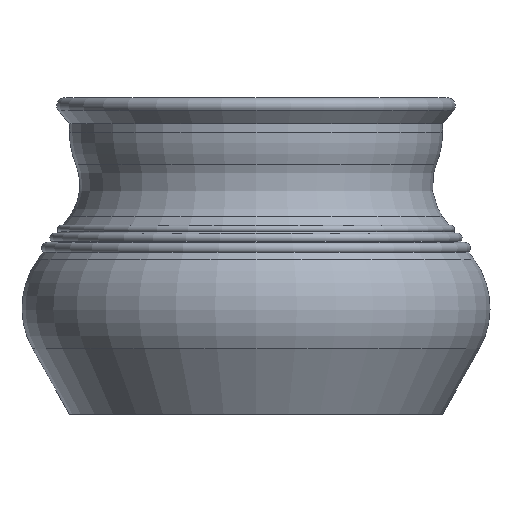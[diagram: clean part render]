
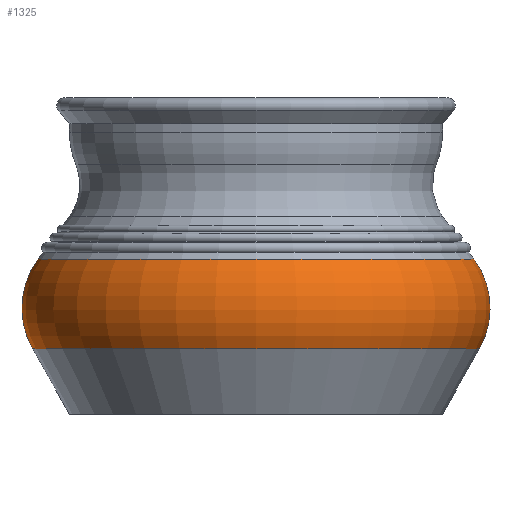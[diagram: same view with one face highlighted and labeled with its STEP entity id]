
A CAD part, front view. The second image highlights one B-rep face of the part: STEP entity #1325.
In plain terms, the highlighted toroidal (fillet/blend) face has major radius 95.641 mm and minor radius 52.359 mm.
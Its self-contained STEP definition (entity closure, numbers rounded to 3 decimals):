
#22=TOROIDAL_SURFACE('',#1505,95.641,52.359);
#166=FACE_OUTER_BOUND('',#284,.T.);
#284=EDGE_LOOP('',(#1208,#1209,#1210,#1211));
#526=CIRCLE('',#1467,141.263);
#549=CIRCLE('',#1506,137.836);
#550=CIRCLE('',#1507,52.359);
#653=VERTEX_POINT('',#2240);
#669=VERTEX_POINT('',#2303);
#818=EDGE_CURVE('',#653,#653,#526,.T.);
#849=EDGE_CURVE('',#669,#669,#549,.T.);
#850=EDGE_CURVE('',#669,#653,#550,.T.);
#1208=ORIENTED_EDGE('',*,*,#849,.F.);
#1209=ORIENTED_EDGE('',*,*,#850,.T.);
#1210=ORIENTED_EDGE('',*,*,#818,.T.);
#1211=ORIENTED_EDGE('',*,*,#850,.F.);
#1325=ADVANCED_FACE('',(#166),#22,.T.);
#1467=AXIS2_PLACEMENT_3D('',#2241,#1837,#1838);
#1505=AXIS2_PLACEMENT_3D('',#2302,#1921,#1922);
#1506=AXIS2_PLACEMENT_3D('',#2304,#1923,#1924);
#1507=AXIS2_PLACEMENT_3D('',#2305,#1925,#1926);
#1837=DIRECTION('center_axis',(0.,0.,1.));
#1838=DIRECTION('ref_axis',(1.,0.,0.));
#1921=DIRECTION('center_axis',(0.,0.,1.));
#1922=DIRECTION('ref_axis',(1.,0.,0.));
#1923=DIRECTION('center_axis',(0.,0.,1.));
#1924=DIRECTION('ref_axis',(1.,0.,0.));
#1925=DIRECTION('center_axis',(0.,-1.,0.));
#1926=DIRECTION('ref_axis',(-1.,0.,0.));
#2240=CARTESIAN_POINT('',(-141.263,0.,41.308));
#2241=CARTESIAN_POINT('Origin',(0.,0.,41.308));
#2302=CARTESIAN_POINT('Origin',(0.,0.,67.));
#2303=CARTESIAN_POINT('',(-137.836,0.,98.));
#2304=CARTESIAN_POINT('Origin',(0.,0.,98.));
#2305=CARTESIAN_POINT('Origin',(-95.641,0.,
67.));
